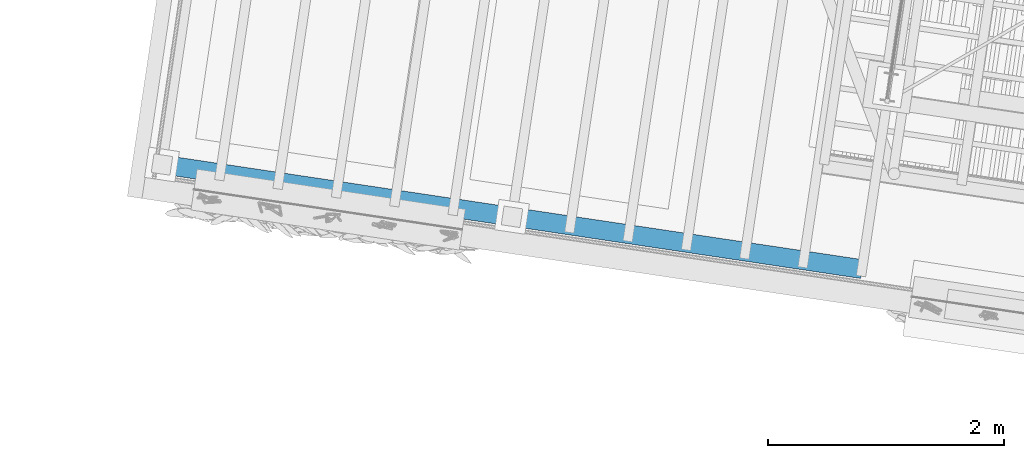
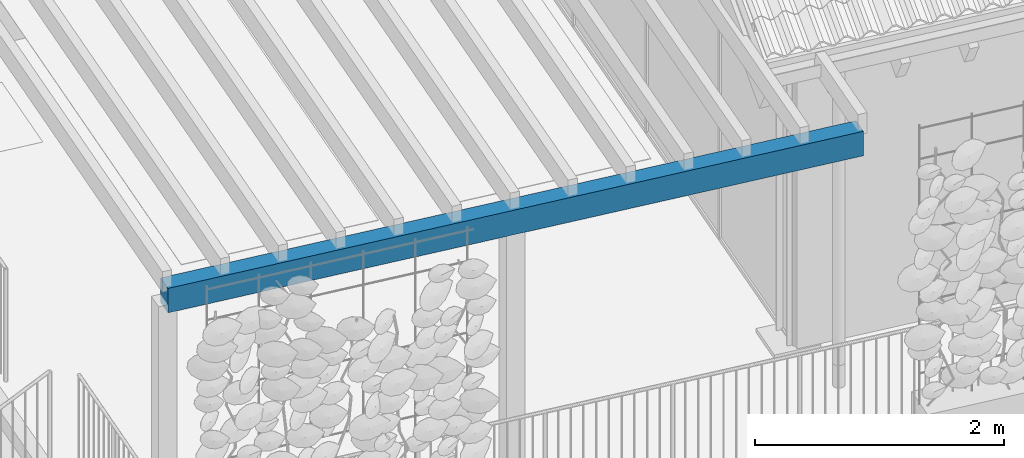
# One storey, part 14 of 128: 1 beam, 1 element without a shape of its own.
"""IFC4 building model written with IfcOpenShell, lengths in metres."""

from ifc_helpers import new_model, si_unit, direction, frame, origin_with_axes, place, context, subcontext, project, spatial, rectangle, extrude, material, material_profile, profile_set, profile_usage, type_object, element, aggregate, save


model = new_model("IFC4")

# Units and contexts
model_context = context("Model", 3, precision=1e-05, world=origin_with_axes(), true_north=direction((0.0, 1.0)))
body_context = subcontext(model_context, "Body", "Model", "MODEL_VIEW")
ifc_project = project(units=[si_unit("VOLUMEUNIT", "CUBIC_METRE"), si_unit("LENGTHUNIT", "METRE"), si_unit("AREAUNIT", "SQUARE_METRE")], contexts=[model_context])

# Site, building, storey
site_placement = place(None, origin_with_axes())
site = spatial("IfcSite", under=ifc_project, at=site_placement, Name="Lares · Rua das Mercês · artigo 4771")
building_placement = place(site_placement, frame((15.0, 9.7, 13.9), z_axis=(0.0, 0.0, 1.0), x_axis=(0.989015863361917, -0.147809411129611, 0.0)))
building = spatial("IfcBuilding", under=site, at=building_placement, Name="Casa Sobreposta")
storey_placement = place(building_placement, origin_with_axes())
storey = spatial("IfcBuildingStorey", under=building, at=storey_placement, Name="00 · Habitação e estacionamento", Elevation=13.9)

# Assembly, beam
assembly_placement = place(storey_placement, origin_with_axes())
assembly = element("IfcElementAssembly", 1, at=assembly_placement, inside=storey, Name="Pérgola de madeira · pátio 6 m", ObjectType="TIMBER_PATIO_PERGOLA", PredefinedType="USERDEFINED")
ifc_material = material(Name="Madeira / Bauholz", Category="wood")
ifc_material_profile = material_profile(ifc_material, rectangle(XDim=0.16, YDim=0.24))
ifc_profile_set = profile_set([ifc_material_profile], Name="TIMBER0.160x0.240")
ifc_profile_usage = profile_usage(ifc_profile_set)
beam_type = type_object("IfcBeamType", Name="TIMBER0.160x0.240 / timber", PredefinedType="NOTDEFINED", material=ifc_profile_set)
beam_placement = place(assembly_placement, frame((-6.0, -1.44, 2.96), z_axis=(1.0, 0.0, 0.0), x_axis=(0.0, -1.0, 0.0)))
beam = element("IfcBeam", 2, at=beam_placement, type_object=beam_type, material=ifc_profile_usage, Name="Pérgola · viga", context=body_context, shape_type="SweptSolid", body=[
    extrude(rectangle(XDim=0.16, YDim=0.24), origin_with_axes(), (0.0, 0.0, 1.0), 6.0),
])
aggregate(assembly, [beam])

save(model, "model.ifc")
